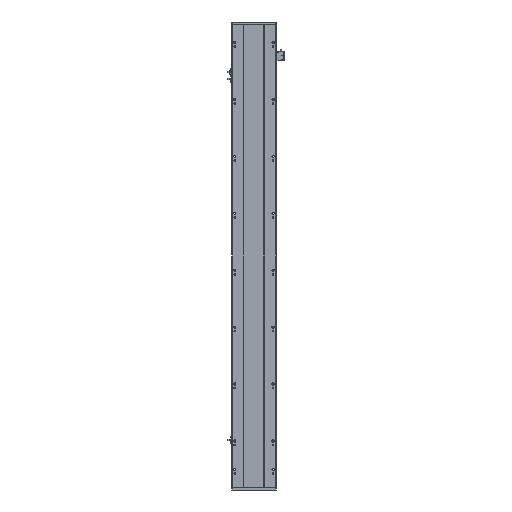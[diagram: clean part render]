
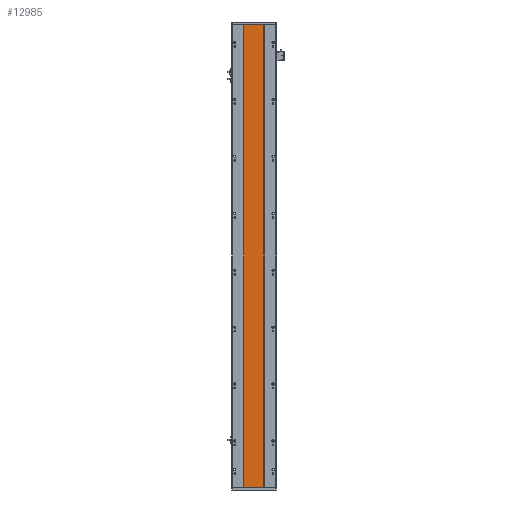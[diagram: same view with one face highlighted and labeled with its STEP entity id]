
A CAD part, front view. The second image highlights one B-rep face of the part: STEP entity #12985.
In plain terms, the highlighted planar face has unit normal (0, -1, 0).
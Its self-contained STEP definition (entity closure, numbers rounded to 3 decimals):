
#245 = VERTEX_POINT ( 'NONE', #12108 ) ;
#737 = VERTEX_POINT ( 'NONE', #6409 ) ;
#1475 = VERTEX_POINT ( 'NONE', #14955 ) ;
#2232 = VECTOR ( 'NONE', #5745, 1000. ) ;
#3219 = CARTESIAN_POINT ( 'NONE',  ( 129.288, 16.9, 0. ) ) ;
#3409 = EDGE_CURVE ( 'NONE', #1475, #8017, #21392, .T. ) ;
#4844 = ORIENTED_EDGE ( 'NONE', *, *, #33182, .F. ) ;
#4993 = DIRECTION ( 'NONE',  ( 1., 0., 0. ) ) ;
#5307 = VECTOR ( 'NONE', #4993, 1000. ) ;
#5459 = DIRECTION ( 'NONE',  ( 0., 0., -1. ) ) ;
#5579 = CARTESIAN_POINT ( 'NONE',  ( 129.288, 16.9, 1756. ) ) ;
#5745 = DIRECTION ( 'NONE',  ( 1., 0., 0. ) ) ;
#6115 = FACE_OUTER_BOUND ( 'NONE', #17419, .T. ) ;
#6409 = CARTESIAN_POINT ( 'NONE',  ( 205.288, 16.9, 0. ) ) ;
#7473 = LINE ( 'NONE', #21856, #24446 ) ;
#8017 = VERTEX_POINT ( 'NONE', #3219 ) ;
#8407 = DIRECTION ( 'NONE',  ( -1., 0., 0. ) ) ;
#10761 = CARTESIAN_POINT ( 'NONE',  ( 205.288, 16.9, 0. ) ) ;
#11803 = CARTESIAN_POINT ( 'NONE',  ( 129.288, 16.9, 1756. ) ) ;
#12059 = ORIENTED_EDGE ( 'NONE', *, *, #3409, .T. ) ;
#12108 = CARTESIAN_POINT ( 'NONE',  ( 205.288, 16.9, 1756. ) ) ;
#12985 = ADVANCED_FACE ( 'NONE', ( #6115 ), #32256, .F. ) ;
#13212 = EDGE_CURVE ( 'NONE', #245, #737, #7473, .T. ) ;
#14955 = CARTESIAN_POINT ( 'NONE',  ( 129.288, 16.9, 1756. ) ) ;
#17419 = EDGE_LOOP ( 'NONE', ( #35717, #21116, #4844, #12059 ) ) ;
#17851 = LINE ( 'NONE', #11803, #2232 ) ;
#21116 = ORIENTED_EDGE ( 'NONE', *, *, #13212, .F. ) ;
#21392 = LINE ( 'NONE', #5579, #28738 ) ;
#21856 = CARTESIAN_POINT ( 'NONE',  ( 205.288, 16.9, 1756. ) ) ;
#23160 = CARTESIAN_POINT ( 'NONE',  ( 205.288, 16.9, 1756. ) ) ;
#24446 = VECTOR ( 'NONE', #27384, 1000. ) ;
#24922 = AXIS2_PLACEMENT_3D ( 'NONE', #23160, #25996, #8407 ) ;
#25996 = DIRECTION ( 'NONE',  ( 0., 1., 0. ) ) ;
#27384 = DIRECTION ( 'NONE',  ( 0., 0., -1. ) ) ;
#28738 = VECTOR ( 'NONE', #5459, 1000. ) ;
#30862 = EDGE_CURVE ( 'NONE', #8017, #737, #36967, .T. ) ;
#32256 = PLANE ( 'NONE',  #24922 ) ;
#33182 = EDGE_CURVE ( 'NONE', #1475, #245, #17851, .T. ) ;
#35717 = ORIENTED_EDGE ( 'NONE', *, *, #30862, .T. ) ;
#36967 = LINE ( 'NONE', #10761, #5307 ) ;
